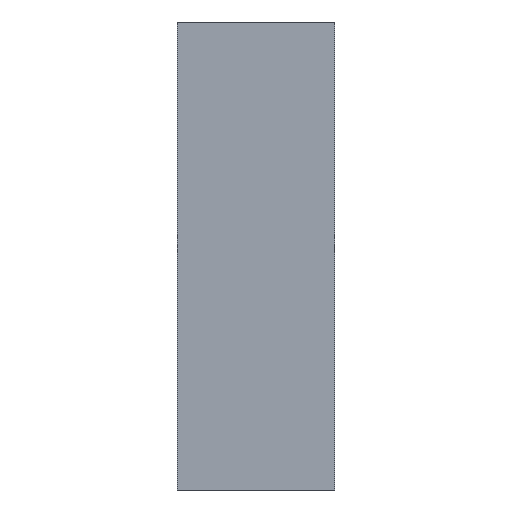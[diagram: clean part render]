
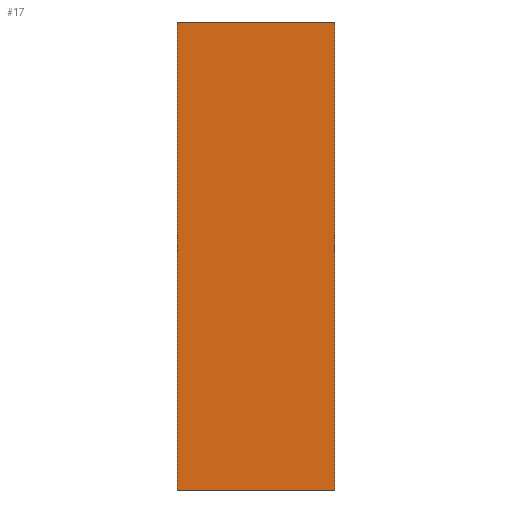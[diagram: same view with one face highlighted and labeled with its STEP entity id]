
A CAD part, left-side view. The second image highlights one B-rep face of the part: STEP entity #17.
In plain terms, the highlighted planar face has unit normal (-1, 0, 0).
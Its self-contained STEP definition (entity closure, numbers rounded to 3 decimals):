
#17 = ADVANCED_FACE('',(#18),#32,.F.);
#18 = FACE_BOUND('',#19,.F.);
#19 = EDGE_LOOP('',(#20,#55,#83,#111));
#20 = ORIENTED_EDGE('',*,*,#21,.F.);
#21 = EDGE_CURVE('',#22,#24,#26,.T.);
#22 = VERTEX_POINT('',#23);
#23 = CARTESIAN_POINT('',(-18.,-23.7,-35.));
#24 = VERTEX_POINT('',#25);
#25 = CARTESIAN_POINT('',(-18.,-23.7,-13.));
#26 = SURFACE_CURVE('',#27,(#31,#43),.PCURVE_S1.);
#27 = LINE('',#28,#29);
#28 = CARTESIAN_POINT('',(-18.,-23.7,-35.));
#29 = VECTOR('',#30,1.);
#30 = DIRECTION('',(0.,0.,1.));
#31 = PCURVE('',#32,#37);
#32 = PLANE('',#33);
#33 = AXIS2_PLACEMENT_3D('',#34,#35,#36);
#34 = CARTESIAN_POINT('',(-18.,-23.7,-35.));
#35 = DIRECTION('',(1.,0.,0.));
#36 = DIRECTION('',(0.,0.,1.));
#37 = DEFINITIONAL_REPRESENTATION('',(#38),#42);
#38 = LINE('',#39,#40);
#39 = CARTESIAN_POINT('',(0.,0.));
#40 = VECTOR('',#41,1.);
#41 = DIRECTION('',(1.,0.));
#42 = ( GEOMETRIC_REPRESENTATION_CONTEXT(2) 
PARAMETRIC_REPRESENTATION_CONTEXT() REPRESENTATION_CONTEXT('2D SPACE',''
  ) );
#43 = PCURVE('',#44,#49);
#44 = PLANE('',#45);
#45 = AXIS2_PLACEMENT_3D('',#46,#47,#48);
#46 = CARTESIAN_POINT('',(-18.,-23.7,-35.));
#47 = DIRECTION('',(0.,1.,0.));
#48 = DIRECTION('',(0.,0.,1.));
#49 = DEFINITIONAL_REPRESENTATION('',(#50),#54);
#50 = LINE('',#51,#52);
#51 = CARTESIAN_POINT('',(0.,0.));
#52 = VECTOR('',#53,1.);
#53 = DIRECTION('',(1.,0.));
#54 = ( GEOMETRIC_REPRESENTATION_CONTEXT(2) 
PARAMETRIC_REPRESENTATION_CONTEXT() REPRESENTATION_CONTEXT('2D SPACE',''
  ) );
#55 = ORIENTED_EDGE('',*,*,#56,.T.);
#56 = EDGE_CURVE('',#22,#57,#59,.T.);
#57 = VERTEX_POINT('',#58);
#58 = CARTESIAN_POINT('',(-18.,-16.3,-35.));
#59 = SURFACE_CURVE('',#60,(#64,#71),.PCURVE_S1.);
#60 = LINE('',#61,#62);
#61 = CARTESIAN_POINT('',(-18.,-23.7,-35.));
#62 = VECTOR('',#63,1.);
#63 = DIRECTION('',(0.,1.,0.));
#64 = PCURVE('',#32,#65);
#65 = DEFINITIONAL_REPRESENTATION('',(#66),#70);
#66 = LINE('',#67,#68);
#67 = CARTESIAN_POINT('',(0.,0.));
#68 = VECTOR('',#69,1.);
#69 = DIRECTION('',(0.,-1.));
#70 = ( GEOMETRIC_REPRESENTATION_CONTEXT(2) 
PARAMETRIC_REPRESENTATION_CONTEXT() REPRESENTATION_CONTEXT('2D SPACE',''
  ) );
#71 = PCURVE('',#72,#77);
#72 = PLANE('',#73);
#73 = AXIS2_PLACEMENT_3D('',#74,#75,#76);
#74 = CARTESIAN_POINT('',(-18.,-23.7,-35.));
#75 = DIRECTION('',(0.,0.,1.));
#76 = DIRECTION('',(1.,0.,0.));
#77 = DEFINITIONAL_REPRESENTATION('',(#78),#82);
#78 = LINE('',#79,#80);
#79 = CARTESIAN_POINT('',(0.,0.));
#80 = VECTOR('',#81,1.);
#81 = DIRECTION('',(0.,1.));
#82 = ( GEOMETRIC_REPRESENTATION_CONTEXT(2) 
PARAMETRIC_REPRESENTATION_CONTEXT() REPRESENTATION_CONTEXT('2D SPACE',''
  ) );
#83 = ORIENTED_EDGE('',*,*,#84,.T.);
#84 = EDGE_CURVE('',#57,#85,#87,.T.);
#85 = VERTEX_POINT('',#86);
#86 = CARTESIAN_POINT('',(-18.,-16.3,-13.));
#87 = SURFACE_CURVE('',#88,(#92,#99),.PCURVE_S1.);
#88 = LINE('',#89,#90);
#89 = CARTESIAN_POINT('',(-18.,-16.3,-35.));
#90 = VECTOR('',#91,1.);
#91 = DIRECTION('',(0.,0.,1.));
#92 = PCURVE('',#32,#93);
#93 = DEFINITIONAL_REPRESENTATION('',(#94),#98);
#94 = LINE('',#95,#96);
#95 = CARTESIAN_POINT('',(0.,-7.4));
#96 = VECTOR('',#97,1.);
#97 = DIRECTION('',(1.,0.));
#98 = ( GEOMETRIC_REPRESENTATION_CONTEXT(2) 
PARAMETRIC_REPRESENTATION_CONTEXT() REPRESENTATION_CONTEXT('2D SPACE',''
  ) );
#99 = PCURVE('',#100,#105);
#100 = PLANE('',#101);
#101 = AXIS2_PLACEMENT_3D('',#102,#103,#104);
#102 = CARTESIAN_POINT('',(-18.,-16.3,-35.));
#103 = DIRECTION('',(0.,1.,0.));
#104 = DIRECTION('',(0.,0.,1.));
#105 = DEFINITIONAL_REPRESENTATION('',(#106),#110);
#106 = LINE('',#107,#108);
#107 = CARTESIAN_POINT('',(0.,0.));
#108 = VECTOR('',#109,1.);
#109 = DIRECTION('',(1.,0.));
#110 = ( GEOMETRIC_REPRESENTATION_CONTEXT(2) 
PARAMETRIC_REPRESENTATION_CONTEXT() REPRESENTATION_CONTEXT('2D SPACE',''
  ) );
#111 = ORIENTED_EDGE('',*,*,#112,.F.);
#112 = EDGE_CURVE('',#24,#85,#113,.T.);
#113 = SURFACE_CURVE('',#114,(#118,#125),.PCURVE_S1.);
#114 = LINE('',#115,#116);
#115 = CARTESIAN_POINT('',(-18.,-23.7,-13.));
#116 = VECTOR('',#117,1.);
#117 = DIRECTION('',(0.,1.,0.));
#118 = PCURVE('',#32,#119);
#119 = DEFINITIONAL_REPRESENTATION('',(#120),#124);
#120 = LINE('',#121,#122);
#121 = CARTESIAN_POINT('',(22.,0.));
#122 = VECTOR('',#123,1.);
#123 = DIRECTION('',(0.,-1.));
#124 = ( GEOMETRIC_REPRESENTATION_CONTEXT(2) 
PARAMETRIC_REPRESENTATION_CONTEXT() REPRESENTATION_CONTEXT('2D SPACE',''
  ) );
#125 = PCURVE('',#126,#131);
#126 = PLANE('',#127);
#127 = AXIS2_PLACEMENT_3D('',#128,#129,#130);
#128 = CARTESIAN_POINT('',(-18.,-23.7,-13.));
#129 = DIRECTION('',(0.,0.,1.));
#130 = DIRECTION('',(1.,0.,0.));
#131 = DEFINITIONAL_REPRESENTATION('',(#132),#136);
#132 = LINE('',#133,#134);
#133 = CARTESIAN_POINT('',(0.,0.));
#134 = VECTOR('',#135,1.);
#135 = DIRECTION('',(0.,1.));
#136 = ( GEOMETRIC_REPRESENTATION_CONTEXT(2) 
PARAMETRIC_REPRESENTATION_CONTEXT() REPRESENTATION_CONTEXT('2D SPACE',''
  ) );
